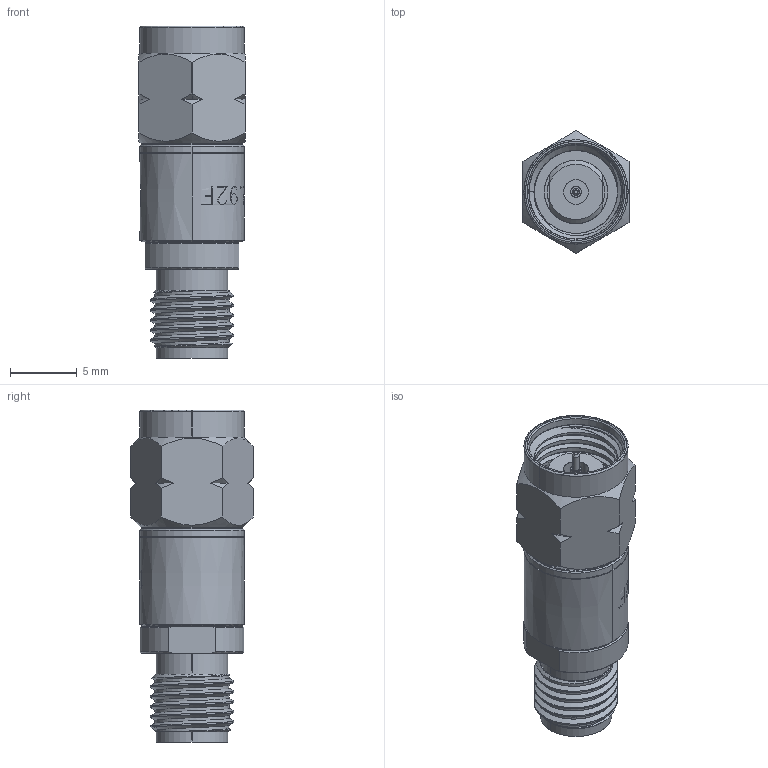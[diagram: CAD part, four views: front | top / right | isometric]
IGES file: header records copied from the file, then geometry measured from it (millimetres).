
Start section: SolidWorks IGES file using analytic representation for surfaces
Global section: file name: C:\Users\sculpepper\Desktop\2234000K001-834-C\2234000K001-834-Cigs.IGS; native system: SolidWorks 2019; preprocessor: SolidWorks 2019; author: sculpepper; date: 201029.161737; units: inch
Bounding box: 7.92 x 9.15 x 24.81 mm (x, y, z)
Surface area: 1207.8 mm2 (no closed solid volume)
Topology: 0 solids, 0 shells, 427 faces, 4369 edges, 4369 vertices
Faces by surface type: bspline 294, revolution 133
